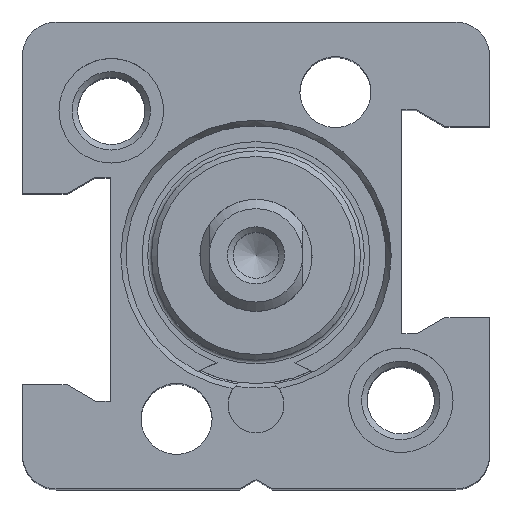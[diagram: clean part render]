
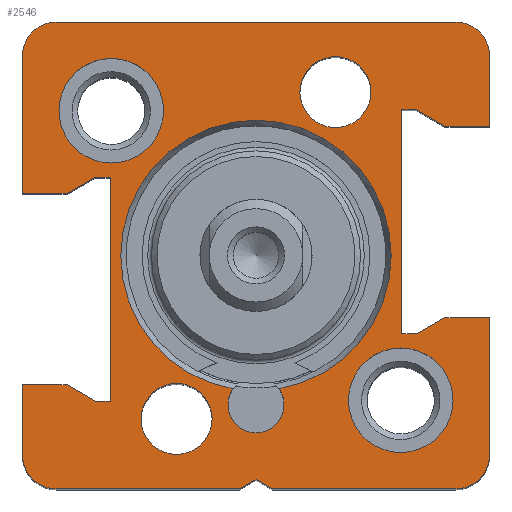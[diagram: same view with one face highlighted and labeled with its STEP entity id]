
A CAD part, top view. The second image highlights one B-rep face of the part: STEP entity #2546.
In plain terms, the highlighted planar face has unit normal (0, 0, 1).
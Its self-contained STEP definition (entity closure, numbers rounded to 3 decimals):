
#104=LINE('',#3533,#197);
#106=LINE('',#3537,#199);
#108=LINE('',#3541,#201);
#110=LINE('',#3545,#203);
#112=LINE('',#3549,#205);
#114=LINE('',#3553,#207);
#116=LINE('',#3557,#209);
#118=LINE('',#3561,#211);
#120=LINE('',#3565,#213);
#123=LINE('',#3573,#216);
#126=LINE('',#3579,#219);
#128=LINE('',#3583,#221);
#131=LINE('',#3591,#224);
#133=LINE('',#3595,#226);
#135=LINE('',#3599,#228);
#137=LINE('',#3603,#230);
#139=LINE('',#3607,#232);
#141=LINE('',#3611,#234);
#143=LINE('',#3615,#236);
#145=LINE('',#3619,#238);
#147=LINE('',#3623,#240);
#152=LINE('',#3719,#245);
#153=LINE('',#3720,#246);
#197=VECTOR('',#2975,1000.);
#199=VECTOR('',#2979,1000.);
#201=VECTOR('',#2983,1000.);
#203=VECTOR('',#2987,1000.);
#205=VECTOR('',#2991,1000.);
#207=VECTOR('',#2995,1000.);
#209=VECTOR('',#2999,1000.);
#211=VECTOR('',#3003,1000.);
#213=VECTOR('',#3007,1000.);
#216=VECTOR('',#3016,1000.);
#219=VECTOR('',#3021,1000.);
#221=VECTOR('',#3025,1000.);
#224=VECTOR('',#3034,1000.);
#226=VECTOR('',#3038,1000.);
#228=VECTOR('',#3042,1000.);
#230=VECTOR('',#3046,1000.);
#232=VECTOR('',#3050,1000.);
#234=VECTOR('',#3054,1000.);
#236=VECTOR('',#3058,1000.);
#238=VECTOR('',#3062,1000.);
#240=VECTOR('',#3066,1000.);
#245=VECTOR('',#3137,1000.);
#246=VECTOR('',#3138,1000.);
#319=PLANE('',#2728);
#560=ORIENTED_EDGE('',*,*,#904,.T.);
#561=ORIENTED_EDGE('',*,*,#905,.T.);
#562=ORIENTED_EDGE('',*,*,#906,.T.);
#563=ORIENTED_EDGE('',*,*,#908,.T.);
#564=ORIENTED_EDGE('',*,*,#928,.T.);
#565=ORIENTED_EDGE('',*,*,#922,.F.);
#566=ORIENTED_EDGE('',*,*,#929,.F.);
#567=ORIENTED_EDGE('',*,*,#852,.F.);
#568=ORIENTED_EDGE('',*,*,#855,.F.);
#569=ORIENTED_EDGE('',*,*,#857,.F.);
#570=ORIENTED_EDGE('',*,*,#859,.F.);
#571=ORIENTED_EDGE('',*,*,#861,.F.);
#572=ORIENTED_EDGE('',*,*,#863,.F.);
#573=ORIENTED_EDGE('',*,*,#865,.F.);
#574=ORIENTED_EDGE('',*,*,#867,.F.);
#575=ORIENTED_EDGE('',*,*,#869,.F.);
#576=ORIENTED_EDGE('',*,*,#871,.F.);
#577=ORIENTED_EDGE('',*,*,#873,.F.);
#578=ORIENTED_EDGE('',*,*,#930,.F.);
#579=ORIENTED_EDGE('',*,*,#875,.F.);
#580=ORIENTED_EDGE('',*,*,#878,.F.);
#581=ORIENTED_EDGE('',*,*,#880,.F.);
#582=ORIENTED_EDGE('',*,*,#882,.F.);
#583=ORIENTED_EDGE('',*,*,#884,.F.);
#584=ORIENTED_EDGE('',*,*,#886,.F.);
#585=ORIENTED_EDGE('',*,*,#888,.F.);
#586=ORIENTED_EDGE('',*,*,#890,.F.);
#587=ORIENTED_EDGE('',*,*,#892,.F.);
#588=ORIENTED_EDGE('',*,*,#894,.F.);
#589=ORIENTED_EDGE('',*,*,#896,.F.);
#590=ORIENTED_EDGE('',*,*,#898,.F.);
#591=ORIENTED_EDGE('',*,*,#900,.F.);
#592=ORIENTED_EDGE('',*,*,#902,.F.);
#852=EDGE_CURVE('',#1071,#1072,#1205,.T.);
#855=EDGE_CURVE('',#1073,#1071,#104,.T.);
#857=EDGE_CURVE('',#1074,#1073,#106,.T.);
#859=EDGE_CURVE('',#1075,#1074,#108,.T.);
#861=EDGE_CURVE('',#1076,#1075,#110,.T.);
#863=EDGE_CURVE('',#1077,#1076,#112,.T.);
#865=EDGE_CURVE('',#1078,#1077,#114,.T.);
#867=EDGE_CURVE('',#1079,#1078,#116,.T.);
#869=EDGE_CURVE('',#1080,#1079,#118,.T.);
#871=EDGE_CURVE('',#1081,#1080,#120,.T.);
#873=EDGE_CURVE('',#1082,#1081,#1206,.T.);
#875=EDGE_CURVE('',#1083,#1084,#123,.T.);
#878=EDGE_CURVE('',#1085,#1083,#126,.T.);
#880=EDGE_CURVE('',#1086,#1085,#128,.T.);
#882=EDGE_CURVE('',#1087,#1086,#1207,.T.);
#884=EDGE_CURVE('',#1088,#1087,#131,.T.);
#886=EDGE_CURVE('',#1089,#1088,#133,.T.);
#888=EDGE_CURVE('',#1090,#1089,#135,.T.);
#890=EDGE_CURVE('',#1091,#1090,#137,.T.);
#892=EDGE_CURVE('',#1092,#1091,#139,.T.);
#894=EDGE_CURVE('',#1093,#1092,#141,.T.);
#896=EDGE_CURVE('',#1094,#1093,#143,.T.);
#898=EDGE_CURVE('',#1095,#1094,#145,.T.);
#900=EDGE_CURVE('',#1096,#1095,#147,.T.);
#902=EDGE_CURVE('',#1097,#1096,#1208,.T.);
#904=EDGE_CURVE('',#1098,#1098,#1209,.T.);
#905=EDGE_CURVE('',#1099,#1099,#1210,.T.);
#906=EDGE_CURVE('',#1100,#1100,#1211,.T.);
#908=EDGE_CURVE('',#1102,#1102,#1213,.T.);
#922=EDGE_CURVE('',#1116,#1117,#1223,.T.);
#928=EDGE_CURVE('',#1116,#1117,#1226,.T.);
#929=EDGE_CURVE('',#1072,#1097,#152,.T.);
#930=EDGE_CURVE('',#1084,#1082,#153,.T.);
#1071=VERTEX_POINT('',#3528);
#1072=VERTEX_POINT('',#3529);
#1073=VERTEX_POINT('',#3534);
#1074=VERTEX_POINT('',#3538);
#1075=VERTEX_POINT('',#3542);
#1076=VERTEX_POINT('',#3546);
#1077=VERTEX_POINT('',#3550);
#1078=VERTEX_POINT('',#3554);
#1079=VERTEX_POINT('',#3558);
#1080=VERTEX_POINT('',#3562);
#1081=VERTEX_POINT('',#3566);
#1082=VERTEX_POINT('',#3570);
#1083=VERTEX_POINT('',#3574);
#1084=VERTEX_POINT('',#3575);
#1085=VERTEX_POINT('',#3580);
#1086=VERTEX_POINT('',#3584);
#1087=VERTEX_POINT('',#3588);
#1088=VERTEX_POINT('',#3592);
#1089=VERTEX_POINT('',#3596);
#1090=VERTEX_POINT('',#3600);
#1091=VERTEX_POINT('',#3604);
#1092=VERTEX_POINT('',#3608);
#1093=VERTEX_POINT('',#3612);
#1094=VERTEX_POINT('',#3616);
#1095=VERTEX_POINT('',#3620);
#1096=VERTEX_POINT('',#3624);
#1097=VERTEX_POINT('',#3628);
#1098=VERTEX_POINT('',#3632);
#1099=VERTEX_POINT('',#3635);
#1100=VERTEX_POINT('',#3638);
#1102=VERTEX_POINT('',#3643);
#1116=VERTEX_POINT('',#3702);
#1117=VERTEX_POINT('',#3704);
#1205=CIRCLE('',#2671,1.8);
#1206=CIRCLE('',#2682,1.8);
#1207=CIRCLE('',#2687,1.8);
#1208=CIRCLE('',#2698,1.8);
#1209=CIRCLE('',#2700,1.9);
#1210=CIRCLE('',#2702,1.9);
#1211=CIRCLE('',#2704,2.8);
#1213=CIRCLE('',#2707,2.8);
#1223=CIRCLE('',#2724,7.239);
#1226=CIRCLE('',#2729,1.5);
#1354=EDGE_LOOP('',(#560));
#1355=EDGE_LOOP('',(#561));
#1356=EDGE_LOOP('',(#562));
#1357=EDGE_LOOP('',(#563));
#1358=EDGE_LOOP('',(#564,#565));
#1359=EDGE_LOOP('',(#566,#567,#568,#569,#570,#571,#572,#573,#574,#575,#576,
#577,#578,#579,#580,#581,#582,#583,#584,#585,#586,#587,#588,#589,#590,#591,
#592));
#1536=FACE_BOUND('',#1354,.T.);
#1537=FACE_BOUND('',#1355,.T.);
#1538=FACE_BOUND('',#1356,.T.);
#1539=FACE_BOUND('',#1357,.T.);
#1540=FACE_BOUND('',#1358,.T.);
#1541=FACE_BOUND('',#1359,.T.);
#2546=ADVANCED_FACE('',(#1536,#1537,#1538,#1539,#1540,#1541),#319,.T.);
#2671=AXIS2_PLACEMENT_3D('',#3527,#2969,#2970);
#2682=AXIS2_PLACEMENT_3D('',#3569,#3011,#3012);
#2687=AXIS2_PLACEMENT_3D('',#3587,#3029,#3030);
#2698=AXIS2_PLACEMENT_3D('',#3627,#3070,#3071);
#2700=AXIS2_PLACEMENT_3D('',#3631,#3075,#3076);
#2702=AXIS2_PLACEMENT_3D('',#3634,#3079,#3080);
#2704=AXIS2_PLACEMENT_3D('',#3637,#3083,#3084);
#2707=AXIS2_PLACEMENT_3D('',#3642,#3089,#3090);
#2724=AXIS2_PLACEMENT_3D('',#3703,#3123,#3124);
#2728=AXIS2_PLACEMENT_3D('',#3717,#3133,#3134);
#2729=AXIS2_PLACEMENT_3D('',#3718,#3135,#3136);
#2969=DIRECTION('',(0.,0.,-1.));
#2970=DIRECTION('',(0.,1.,0.));
#2975=DIRECTION('',(0.,1.,0.));
#2979=DIRECTION('',(-1.,0.,0.));
#2983=DIRECTION('',(-0.866,-0.5,0.));
#2987=DIRECTION('',(-1.,0.,0.));
#2991=DIRECTION('',(0.,1.,0.));
#2995=DIRECTION('',(1.,0.,0.));
#2999=DIRECTION('',(0.866,-0.5,0.));
#3003=DIRECTION('',(1.,0.,0.));
#3007=DIRECTION('',(0.,1.,0.));
#3011=DIRECTION('',(0.,0.,-1.));
#3012=DIRECTION('',(-1.,0.,0.));
#3016=DIRECTION('',(-0.866,-0.5,0.));
#3021=DIRECTION('',(-0.866,0.5,0.));
#3025=DIRECTION('',(-1.,0.,0.));
#3029=DIRECTION('',(0.,0.,-1.));
#3030=DIRECTION('',(0.,-1.,0.));
#3034=DIRECTION('',(0.,-1.,0.));
#3038=DIRECTION('',(1.,0.,0.));
#3042=DIRECTION('',(0.866,0.5,0.));
#3046=DIRECTION('',(1.,0.,0.));
#3050=DIRECTION('',(0.,-1.,0.));
#3054=DIRECTION('',(-1.,0.,0.));
#3058=DIRECTION('',(-0.866,0.5,0.));
#3062=DIRECTION('',(-1.,0.,0.));
#3066=DIRECTION('',(0.,-1.,0.));
#3070=DIRECTION('',(0.,0.,-1.));
#3071=DIRECTION('',(1.,0.,0.));
#3075=DIRECTION('',(0.,0.,-1.));
#3076=DIRECTION('',(-1.,0.,0.));
#3079=DIRECTION('',(0.,0.,-1.));
#3080=DIRECTION('',(-1.,0.,0.));
#3083=DIRECTION('',(0.,0.,-1.));
#3084=DIRECTION('',(-1.,0.,0.));
#3089=DIRECTION('',(0.,0.,-1.));
#3090=DIRECTION('',(-1.,0.,0.));
#3123=DIRECTION('',(0.,0.,1.));
#3124=DIRECTION('',(0.,-1.,0.));
#3133=DIRECTION('',(0.,0.,1.));
#3134=DIRECTION('',(1.,0.,0.));
#3135=DIRECTION('',(0.,0.,-1.));
#3136=DIRECTION('',(-1.,0.,0.));
#3137=DIRECTION('',(1.,0.,0.));
#3138=DIRECTION('',(-1.,0.,0.));
#3527=CARTESIAN_POINT('',(-10.7,10.7,32.));
#3528=CARTESIAN_POINT('',(-12.5,10.7,32.));
#3529=CARTESIAN_POINT('',(-10.7,12.5,32.));
#3533=CARTESIAN_POINT('',(-12.5,3.325,32.));
#3534=CARTESIAN_POINT('',(-12.5,3.325,32.));
#3537=CARTESIAN_POINT('',(-10.116,3.325,32.));
#3538=CARTESIAN_POINT('',(-10.116,3.325,32.));
#3541=CARTESIAN_POINT('',(-8.6,4.2,32.));
#3542=CARTESIAN_POINT('',(-8.6,4.2,32.));
#3545=CARTESIAN_POINT('',(-7.8,4.2,32.));
#3546=CARTESIAN_POINT('',(-7.8,4.2,32.));
#3549=CARTESIAN_POINT('',(-7.8,-7.8,32.));
#3550=CARTESIAN_POINT('',(-7.8,-7.8,32.));
#3553=CARTESIAN_POINT('',(-8.6,-7.8,32.));
#3554=CARTESIAN_POINT('',(-8.6,-7.8,32.));
#3557=CARTESIAN_POINT('',(-10.116,-6.925,32.));
#3558=CARTESIAN_POINT('',(-10.116,-6.925,32.));
#3561=CARTESIAN_POINT('',(-12.5,-6.925,32.));
#3562=CARTESIAN_POINT('',(-12.5,-6.925,32.));
#3565=CARTESIAN_POINT('',(-12.5,-10.7,32.));
#3566=CARTESIAN_POINT('',(-12.5,-10.7,32.));
#3569=CARTESIAN_POINT('',(-10.7,-10.7,32.));
#3570=CARTESIAN_POINT('',(-10.7,-12.5,32.));
#3573=CARTESIAN_POINT('',(0.,-12.,32.));
#3574=CARTESIAN_POINT('',(0.,-12.,32.));
#3575=CARTESIAN_POINT('',(-0.866,-12.5,32.));
#3579=CARTESIAN_POINT('',(0.866,-12.5,32.));
#3580=CARTESIAN_POINT('',(0.866,-12.5,32.));
#3583=CARTESIAN_POINT('',(10.7,-12.5,32.));
#3584=CARTESIAN_POINT('',(10.7,-12.5,32.));
#3587=CARTESIAN_POINT('',(10.7,-10.7,32.));
#3588=CARTESIAN_POINT('',(12.5,-10.7,32.));
#3591=CARTESIAN_POINT('',(12.5,-3.325,32.));
#3592=CARTESIAN_POINT('',(12.5,-3.325,32.));
#3595=CARTESIAN_POINT('',(10.116,-3.325,32.));
#3596=CARTESIAN_POINT('',(10.116,-3.325,32.));
#3599=CARTESIAN_POINT('',(8.6,-4.2,32.));
#3600=CARTESIAN_POINT('',(8.6,-4.2,32.));
#3603=CARTESIAN_POINT('',(7.8,-4.2,32.));
#3604=CARTESIAN_POINT('',(7.8,-4.2,32.));
#3607=CARTESIAN_POINT('',(7.8,7.8,32.));
#3608=CARTESIAN_POINT('',(7.8,7.8,32.));
#3611=CARTESIAN_POINT('',(8.6,7.8,32.));
#3612=CARTESIAN_POINT('',(8.6,7.8,32.));
#3615=CARTESIAN_POINT('',(10.116,6.925,32.));
#3616=CARTESIAN_POINT('',(10.116,6.925,32.));
#3619=CARTESIAN_POINT('',(12.5,6.925,32.));
#3620=CARTESIAN_POINT('',(12.5,6.925,32.));
#3623=CARTESIAN_POINT('',(12.5,10.7,32.));
#3624=CARTESIAN_POINT('',(12.5,10.7,32.));
#3627=CARTESIAN_POINT('',(10.7,10.7,32.));
#3628=CARTESIAN_POINT('',(10.7,12.5,32.));
#3631=CARTESIAN_POINT('',(4.25,8.75,32.));
#3632=CARTESIAN_POINT('',(2.35,8.75,32.));
#3634=CARTESIAN_POINT('',(-4.25,-8.75,32.));
#3635=CARTESIAN_POINT('',(-6.15,-8.75,32.));
#3637=CARTESIAN_POINT('',(7.75,-7.75,32.));
#3638=CARTESIAN_POINT('',(4.95,-7.75,32.));
#3642=CARTESIAN_POINT('',(-7.75,7.75,32.));
#3643=CARTESIAN_POINT('',(-10.55,7.75,32.));
#3702=CARTESIAN_POINT('',(1.225,-7.134,32.));
#3703=CARTESIAN_POINT('',(0.,0.,32.));
#3704=CARTESIAN_POINT('',(-1.225,-7.134,32.));
#3717=CARTESIAN_POINT('',(0.,-0.024,32.));
#3718=CARTESIAN_POINT('',(0.,-8.,32.));
#3719=CARTESIAN_POINT('',(-10.7,12.5,32.));
#3720=CARTESIAN_POINT('',(-0.866,-12.5,32.));
